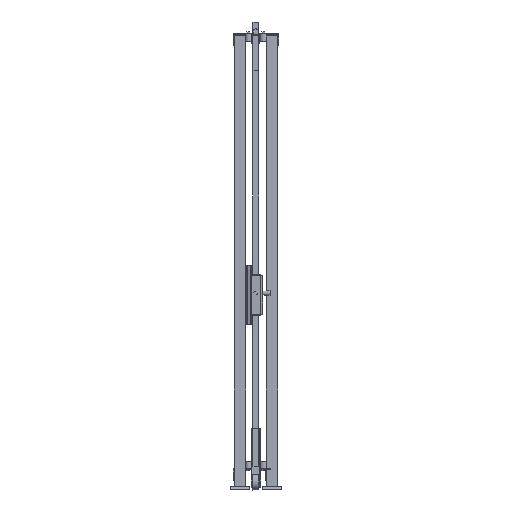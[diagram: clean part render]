
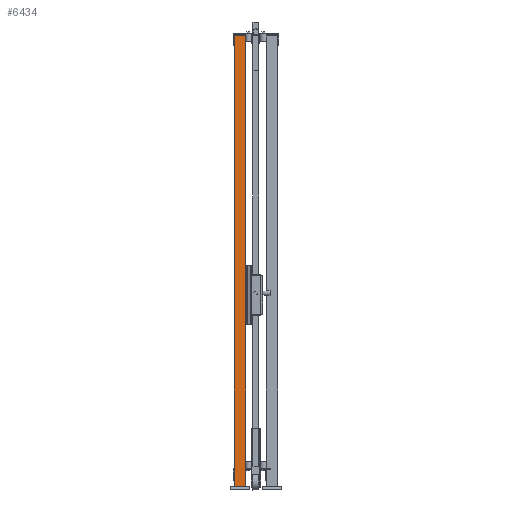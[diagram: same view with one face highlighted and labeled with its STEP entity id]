
A CAD part, left-side view. The second image highlights one B-rep face of the part: STEP entity #6434.
In plain terms, the highlighted planar face has unit normal (-1, 0, 0) as drawn and (0, 1, 0) by its records, which use the part's own axes.
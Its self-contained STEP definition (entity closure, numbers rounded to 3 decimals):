
#612=FACE_OUTER_BOUND('',#1132,.T.);
#1132=EDGE_LOOP('',(#4006,#4007,#4008,#4009));
#1718=VERTEX_POINT('',#14474);
#1719=VERTEX_POINT('',#14476);
#1721=VERTEX_POINT('',#14482);
#1724=VERTEX_POINT('',#14487);
#2584=EDGE_CURVE('',#1718,#1719,#7822,.T.);
#2590=EDGE_CURVE('',#1724,#1721,#7828,.T.);
#2593=EDGE_CURVE('',#1719,#1724,#7831,.T.);
#2594=EDGE_CURVE('',#1718,#1721,#7832,.T.);
#4006=ORIENTED_EDGE('',*,*,#2594,.T.);
#4007=ORIENTED_EDGE('',*,*,#2590,.F.);
#4008=ORIENTED_EDGE('',*,*,#2593,.F.);
#4009=ORIENTED_EDGE('',*,*,#2584,.F.);
#5984=PLANE('',#9981);
#6434=ADVANCED_FACE('',(#612),#5984,.F.);
#7822=LINE('',#14477,#9038);
#7828=LINE('',#14489,#9044);
#7831=LINE('',#14494,#9047);
#7832=LINE('',#14496,#9048);
#9038=VECTOR('',#11266,1.);
#9044=VECTOR('',#11274,1.);
#9047=VECTOR('',#11281,1.);
#9048=VECTOR('',#11284,1.);
#9981=AXIS2_PLACEMENT_3D('',#14495,#11282,#11283);
#11266=DIRECTION('',(-1.,0.,0.));
#11274=DIRECTION('',(1.,0.,0.));
#11281=DIRECTION('',(0.,0.,-1.));
#11282=DIRECTION('center_axis',(0.,-1.,0.));
#11283=DIRECTION('ref_axis',(0.,0.,-1.));
#11284=DIRECTION('',(0.,0.,-1.));
#14474=CARTESIAN_POINT('',(30.,30.,2320.));
#14476=CARTESIAN_POINT('',(-30.,30.,2320.));
#14477=CARTESIAN_POINT('',(0.,30.,2320.));
#14482=CARTESIAN_POINT('',(30.,30.,20.));
#14487=CARTESIAN_POINT('',(-30.,30.,20.));
#14489=CARTESIAN_POINT('',(0.,30.,20.));
#14494=CARTESIAN_POINT('',(-30.,30.,1170.));
#14495=CARTESIAN_POINT('Origin',(0.,30.,
1170.));
#14496=CARTESIAN_POINT('',(30.,30.,1170.));
